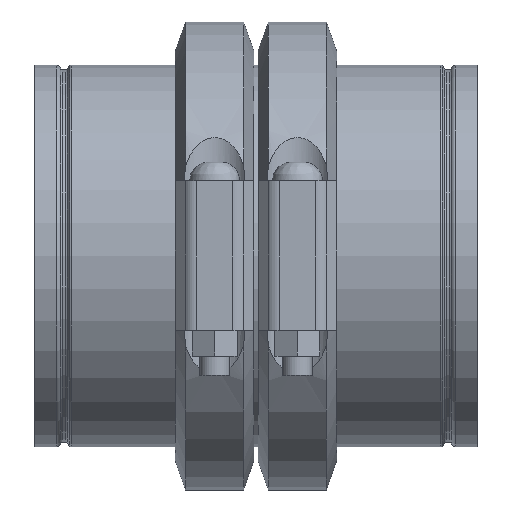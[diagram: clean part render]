
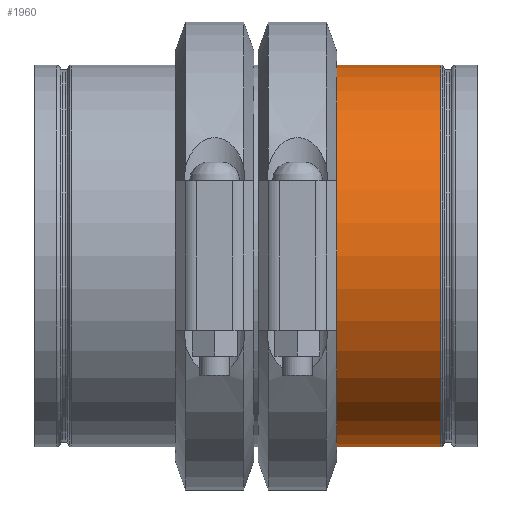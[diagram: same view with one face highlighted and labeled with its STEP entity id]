
A CAD part, top view. The second image highlights one B-rep face of the part: STEP entity #1960.
In plain terms, the highlighted cylindrical face has radius 161.925 mm (diameter 323.85 mm), a full revolution.
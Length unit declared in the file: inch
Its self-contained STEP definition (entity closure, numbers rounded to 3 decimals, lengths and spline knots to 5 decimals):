
#74=LINE('',#3196,#167);
#167=VECTOR('',#2563,6.375);
#260=CYLINDRICAL_SURFACE('',#2205,6.375);
#376=FACE_OUTER_BOUND('',#484,.T.);
#484=EDGE_LOOP('',(#1350,#1351,#1352,#1353,#1354,#1355,#1356,#1357));
#639=CIRCLE('',#2201,6.375);
#640=CIRCLE('',#2202,6.375);
#642=CIRCLE('',#2204,6.375);
#643=CIRCLE('',#2206,6.375);
#644=CIRCLE('',#2207,6.375);
#645=CIRCLE('',#2208,6.375);
#804=VERTEX_POINT('',#3183);
#805=VERTEX_POINT('',#3184);
#806=VERTEX_POINT('',#3186);
#807=VERTEX_POINT('',#3191);
#808=VERTEX_POINT('',#3192);
#809=VERTEX_POINT('',#3194);
#1019=EDGE_CURVE('',#804,#805,#639,.T.);
#1020=EDGE_CURVE('',#805,#806,#640,.T.);
#1022=EDGE_CURVE('',#806,#804,#642,.T.);
#1023=EDGE_CURVE('',#807,#808,#643,.T.);
#1024=EDGE_CURVE('',#809,#807,#644,.T.);
#1025=EDGE_CURVE('',#809,#805,#74,.T.);
#1026=EDGE_CURVE('',#808,#809,#645,.T.);
#1350=ORIENTED_EDGE('',*,*,#1023,.F.);
#1351=ORIENTED_EDGE('',*,*,#1024,.F.);
#1352=ORIENTED_EDGE('',*,*,#1025,.T.);
#1353=ORIENTED_EDGE('',*,*,#1019,.F.);
#1354=ORIENTED_EDGE('',*,*,#1022,.F.);
#1355=ORIENTED_EDGE('',*,*,#1020,.F.);
#1356=ORIENTED_EDGE('',*,*,#1025,.F.);
#1357=ORIENTED_EDGE('',*,*,#1026,.F.);
#1960=ADVANCED_FACE('',(#376),#260,.T.);
#2201=AXIS2_PLACEMENT_3D('',#3185,#2549,#2550);
#2202=AXIS2_PLACEMENT_3D('',#3187,#2551,#2552);
#2204=AXIS2_PLACEMENT_3D('',#3189,#2555,#2556);
#2205=AXIS2_PLACEMENT_3D('',#3190,#2557,#2558);
#2206=AXIS2_PLACEMENT_3D('',#3193,#2559,#2560);
#2207=AXIS2_PLACEMENT_3D('',#3195,#2561,#2562);
#2208=AXIS2_PLACEMENT_3D('',#3197,#2564,#2565);
#2549=DIRECTION('center_axis',(-1.,0.,0.));
#2550=DIRECTION('ref_axis',(0.,-1.,0.));
#2551=DIRECTION('center_axis',(-1.,0.,0.));
#2552=DIRECTION('ref_axis',(0.,-1.,0.));
#2555=DIRECTION('center_axis',(-1.,0.,0.));
#2556=DIRECTION('ref_axis',(0.,-1.,0.));
#2557=DIRECTION('center_axis',(1.,0.,0.));
#2558=DIRECTION('ref_axis',(0.,1.,0.));
#2559=DIRECTION('center_axis',(1.,0.,0.));
#2560=DIRECTION('ref_axis',(0.,-1.,0.));
#2561=DIRECTION('center_axis',(1.,0.,0.));
#2562=DIRECTION('ref_axis',(0.,-1.,0.));
#2563=DIRECTION('',(-1.,0.,0.));
#2564=DIRECTION('center_axis',(1.,0.,0.));
#2565=DIRECTION('ref_axis',(0.,-1.,0.));
#3183=CARTESIAN_POINT('',(1.249,6.375,0.));
#3184=CARTESIAN_POINT('',(1.249,-6.375,0.));
#3185=CARTESIAN_POINT('Origin',(1.249,0.,0.));
#3186=CARTESIAN_POINT('',(1.249,0.,6.375));
#3187=CARTESIAN_POINT('Origin',(1.249,0.,0.));
#3189=CARTESIAN_POINT('Origin',(1.249,0.,0.));
#3190=CARTESIAN_POINT('Origin',(3.01773,0.,0.));
#3191=CARTESIAN_POINT('',(4.78523,6.375,0.));
#3192=CARTESIAN_POINT('',(4.78523,0.,6.375));
#3193=CARTESIAN_POINT('Origin',(4.78523,0.,0.));
#3194=CARTESIAN_POINT('',(4.78523,-6.375,0.));
#3195=CARTESIAN_POINT('Origin',(4.78523,0.,0.));
#3196=CARTESIAN_POINT('',(3.01773,-6.375,0.));
#3197=CARTESIAN_POINT('Origin',(4.78523,0.,0.));
